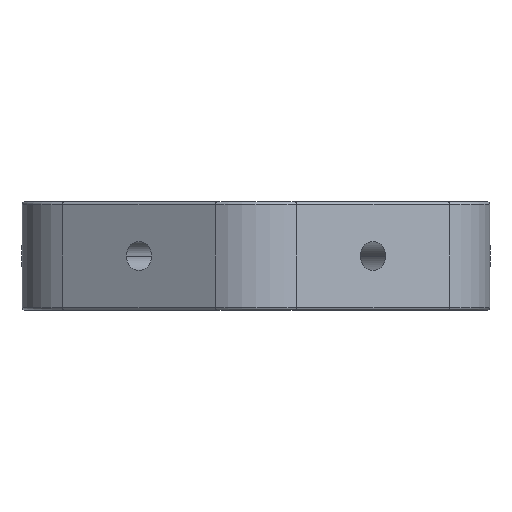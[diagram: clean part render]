
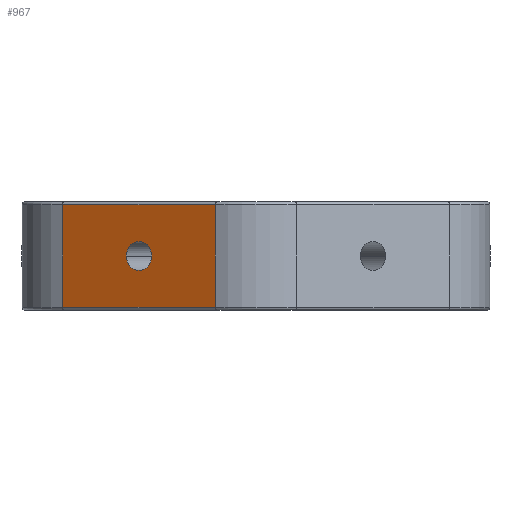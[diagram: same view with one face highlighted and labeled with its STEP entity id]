
A CAD part, front view. The second image highlights one B-rep face of the part: STEP entity #967.
In plain terms, the highlighted planar face has unit normal (-0.5, -0.866, 0).
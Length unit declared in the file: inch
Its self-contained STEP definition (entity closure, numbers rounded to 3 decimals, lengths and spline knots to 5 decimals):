
#40 = ORIENTED_EDGE ( 'NONE', *, *, #3478, .T. ) ;
#47 = CARTESIAN_POINT ( 'NONE',  ( -1.624, -0.93762, -0.355 ) ) ;
#211 = EDGE_LOOP ( 'NONE', ( #224, #3036 ) ) ;
#224 = ORIENTED_EDGE ( 'NONE', *, *, #3468, .F. ) ;
#249 = CIRCLE ( 'NONE', #2443, 0.1005 ) ;
#362 = VERTEX_POINT ( 'NONE', #1018 ) ;
#389 = ORIENTED_EDGE ( 'NONE', *, *, #3475, .T. ) ;
#410 = PLANE ( 'NONE',  #3188 ) ;
#419 = CARTESIAN_POINT ( 'NONE',  ( -1.624, -0.93762, 0.375 ) ) ;
#456 = LINE ( 'NONE', #47, #2557 ) ;
#484 = VECTOR ( 'NONE', #1065, 39.37008 ) ;
#530 = DIRECTION ( 'NONE',  ( -0.5, -0.866, 0. ) ) ;
#699 = DIRECTION ( 'NONE',  ( -0.866, 0.5, 0. ) ) ;
#764 = VERTEX_POINT ( 'NONE', #866 ) ;
#866 = CARTESIAN_POINT ( 'NONE',  ( -0.2815, -1.71271, -0.355 ) ) ;
#967 = ADVANCED_FACE ( 'NONE', ( #2832, #3539 ), #410, .F. ) ;
#1018 = CARTESIAN_POINT ( 'NONE',  ( -1.3425, -1.10014, -0.355 ) ) ;
#1065 = DIRECTION ( 'NONE',  ( 0., 0., -1. ) ) ;
#1066 = VECTOR ( 'NONE', #3527, 39.37008 ) ;
#1073 = LINE ( 'NONE', #3181, #2481 ) ;
#1079 = ORIENTED_EDGE ( 'NONE', *, *, #3477, .T. ) ;
#1298 = LINE ( 'NONE', #1789, #484 ) ;
#1355 = DIRECTION ( 'NONE',  ( -0.5, -0.866, 0. ) ) ;
#1529 = CARTESIAN_POINT ( 'NONE',  ( -1.3425, -1.10014, 0.355 ) ) ;
#1585 = CARTESIAN_POINT ( 'NONE',  ( -0.72496, -1.45668, 0. ) ) ;
#1716 = DIRECTION ( 'NONE',  ( -0.866, 0.5, 0. ) ) ;
#1739 = ORIENTED_EDGE ( 'NONE', *, *, #3471, .T. ) ;
#1789 = CARTESIAN_POINT ( 'NONE',  ( -1.3425, -1.10014, 0.375 ) ) ;
#1813 = DIRECTION ( 'NONE',  ( 0.866, -0.5, 0. ) ) ;
#1856 = CARTESIAN_POINT ( 'NONE',  ( -0.89904, -1.35618, 0. ) ) ;
#1980 = DIRECTION ( 'NONE',  ( 0.866, -0.5, 0. ) ) ;
#2023 = VERTEX_POINT ( 'NONE', #3466 ) ;
#2135 = DIRECTION ( 'NONE',  ( 0.5, 0.866, 0. ) ) ;
#2269 = CARTESIAN_POINT ( 'NONE',  ( -0.812, -1.40643, 0. ) ) ;
#2443 = AXIS2_PLACEMENT_3D ( 'NONE', #3324, #1355, #2960 ) ;
#2481 = VECTOR ( 'NONE', #1716, 39.37008 ) ;
#2537 = AXIS2_PLACEMENT_3D ( 'NONE', #2269, #530, #1980 ) ;
#2557 = VECTOR ( 'NONE', #1813, 39.37008 ) ;
#2597 = CARTESIAN_POINT ( 'NONE',  ( -0.2815, -1.71271, 0.375 ) ) ;
#2832 = FACE_BOUND ( 'NONE', #211, .T. ) ;
#2870 = VERTEX_POINT ( 'NONE', #1856 ) ;
#2960 = DIRECTION ( 'NONE',  ( 0.866, -0.5, 0. ) ) ;
#3036 = ORIENTED_EDGE ( 'NONE', *, *, #3272, .F. ) ;
#3040 = LINE ( 'NONE', #2597, #1066 ) ;
#3059 = EDGE_LOOP ( 'NONE', ( #1739, #389, #1079, #40 ) ) ;
#3172 = VERTEX_POINT ( 'NONE', #1529 ) ;
#3181 = CARTESIAN_POINT ( 'NONE',  ( -1.3425, -1.10014, 0.355 ) ) ;
#3188 = AXIS2_PLACEMENT_3D ( 'NONE', #419, #2135, #699 ) ;
#3272 = EDGE_CURVE ( 'NONE', #2870, #3530, #3312, .T. ) ;
#3312 = CIRCLE ( 'NONE', #2537, 0.1005 ) ;
#3324 = CARTESIAN_POINT ( 'NONE',  ( -0.812, -1.40643, 0. ) ) ;
#3466 = CARTESIAN_POINT ( 'NONE',  ( -0.2815, -1.71271, 0.355 ) ) ;
#3468 = EDGE_CURVE ( 'NONE', #3530, #2870, #249, .T. ) ;
#3471 = EDGE_CURVE ( 'NONE', #3172, #362, #1298, .T. ) ;
#3475 = EDGE_CURVE ( 'NONE', #362, #764, #456, .T. ) ;
#3477 = EDGE_CURVE ( 'NONE', #764, #2023, #3040, .T. ) ;
#3478 = EDGE_CURVE ( 'NONE', #2023, #3172, #1073, .T. ) ;
#3527 = DIRECTION ( 'NONE',  ( 0., 0., 1. ) ) ;
#3530 = VERTEX_POINT ( 'NONE', #1585 ) ;
#3539 = FACE_OUTER_BOUND ( 'NONE', #3059, .T. ) ;
